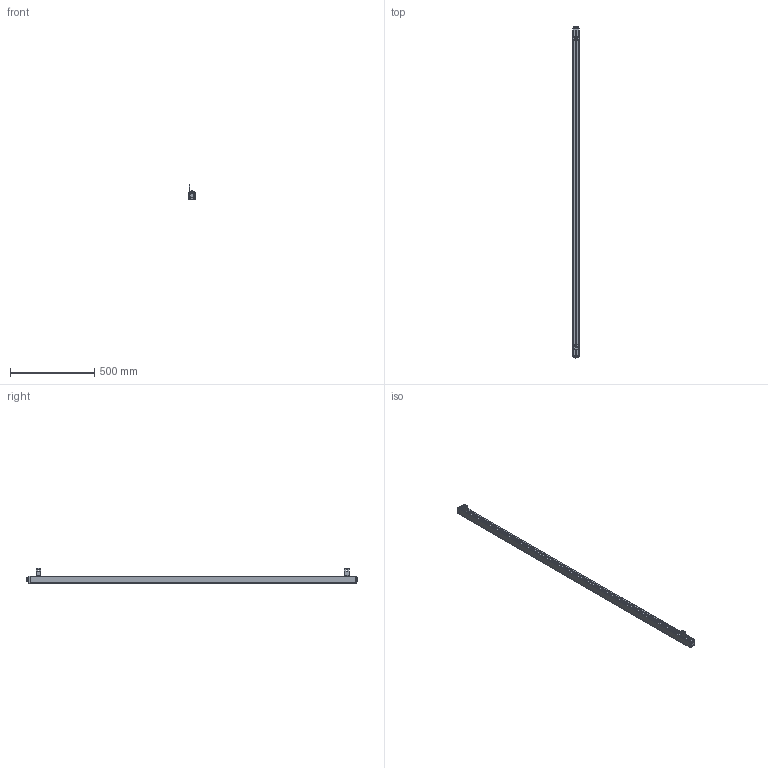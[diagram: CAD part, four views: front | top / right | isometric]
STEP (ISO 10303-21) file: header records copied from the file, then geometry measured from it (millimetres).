
FILE_DESCRIPTION((''),'2;1');
FILE_NAME('ESCL-00_ASM','2021-07-17T10:22:36',('18720616900'),(''),'CREO PARAMETRIC BY PTC INC, 2019010','CREO PARAMETRIC BY PTC INC, 2019010','');
FILE_SCHEMA(('CONFIG_CONTROL_DESIGN'));
Products named in the file (12): ESCL-00; ESCL-3-SOLID1000; ESCL-4-SOLID1000; HKCT1_-4-SOLID1; L10001; M6-8--0001; M6-1--00; M6-1-00; 00; M6-80001_ASM; L1--0001_ASM; ESCL-00_ASM
Assembly tree (12 placements, depth 4):
  ESCL-00_ASM
    ESCL-00
    ESCL-3-SOLID1000
    ESCL-4-SOLID1000
    HKCT1_-4-SOLID1
    L1--0001_ASM  x2
      L10001
      M6-80001_ASM
        M6-8--0001
        M6-1--00
        M6-1-00
        00
Bounding box: 36.1 x 1965.1 x 91.11 mm (x, y, z)
Volume: 2811093 mm3; surface area: 406169.3 mm2
Topology: 14 solids, 14 shells, 625 faces, 1645 edges, 1070 vertices
Faces by surface type: plane 226, cylinder 208, cone 78, bspline 66, torus 47
Entity records: 76177 total; most frequent: CARTESIAN_POINT 63991, ORIENTED_EDGE 2664, DIRECTION 2275, EDGE_CURVE 1332, VERTEX_POINT 872, AXIS2_PLACEMENT_3D 816, VECTOR 643, LINE 643
